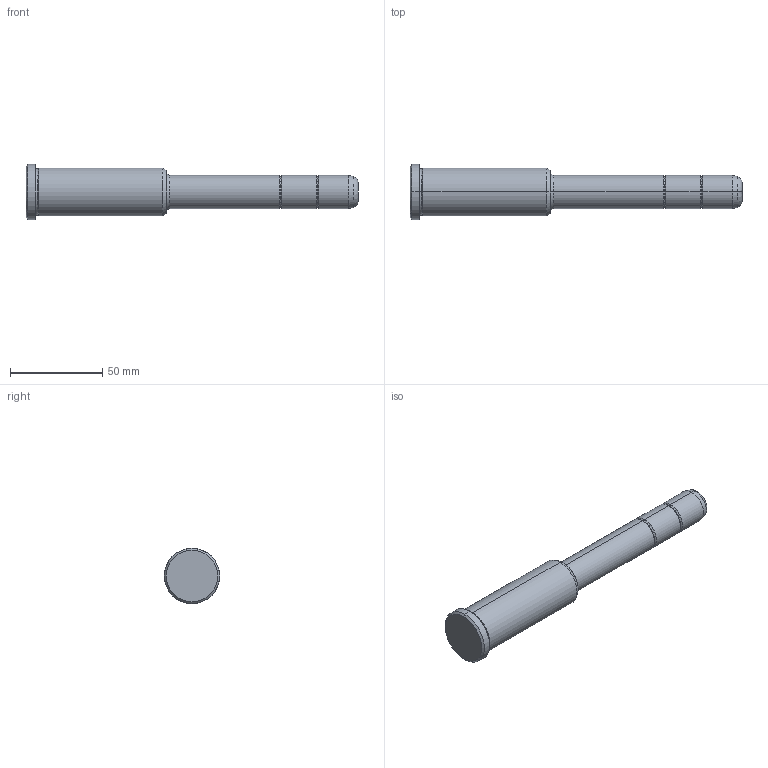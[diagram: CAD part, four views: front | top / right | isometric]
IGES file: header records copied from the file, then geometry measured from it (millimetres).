
Start section: START RECORD GO HERE.
Global section: file name: 351-18X76X180.igs; native system: DASSAULT SYSTEMES CATIA V5 R20 - www.3ds.com; preprocessor: CATIA Version 5 Release 20 ; author: Utente; organization: NB04-ASUS; date: 20210827.132556; units: millimetre
Bounding box: 180 x 30 x 30 mm (x, y, z)
Surface area: 13335 mm2 (no closed solid volume)
Topology: 0 solids, 0 shells, 36 faces, 204 edges, 204 vertices
Faces by surface type: revolution 32, plane 4
